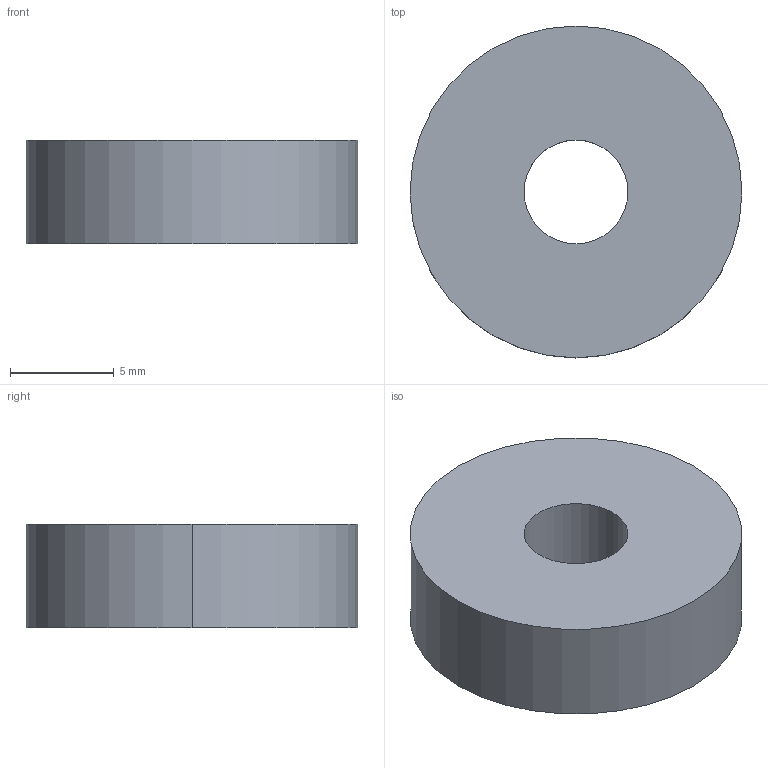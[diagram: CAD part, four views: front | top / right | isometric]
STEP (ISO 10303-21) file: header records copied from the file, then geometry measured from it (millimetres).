
FILE_DESCRIPTION (( 'STEP AP203' ), '1' );
FILE_NAME ('V2_REF_625ZZ.STEP', '2026-09-18T10:18:01', ( '15300530775@163.com' ), ( '' ), 'SwSTEP 2.0', 'SolidWorks 2026', '' );
FILE_SCHEMA (( 'CONFIG_CONTROL_DESIGN' ));
Length unit declared in the file: millimetre
Products named in the file (1): V2_REF_625ZZ
Bounding box: 16 x 16 x 5 mm (x, y, z)
Volume: 907.1 mm3; surface area: 692.7 mm2
Topology: 1 solids, 1 shells, 6 faces, 12 edges, 8 vertices
Faces by surface type: cylinder 4, plane 2
Entity records: 245 total; most frequent: DIRECTION 34, CARTESIAN_POINT 27, ORIENTED_EDGE 24, AXIS2_PLACEMENT_3D 15, EDGE_CURVE 12, VERTEX_POINT 8, PERSON_AND_ORGANIZATION 8, CIRCLE 8
